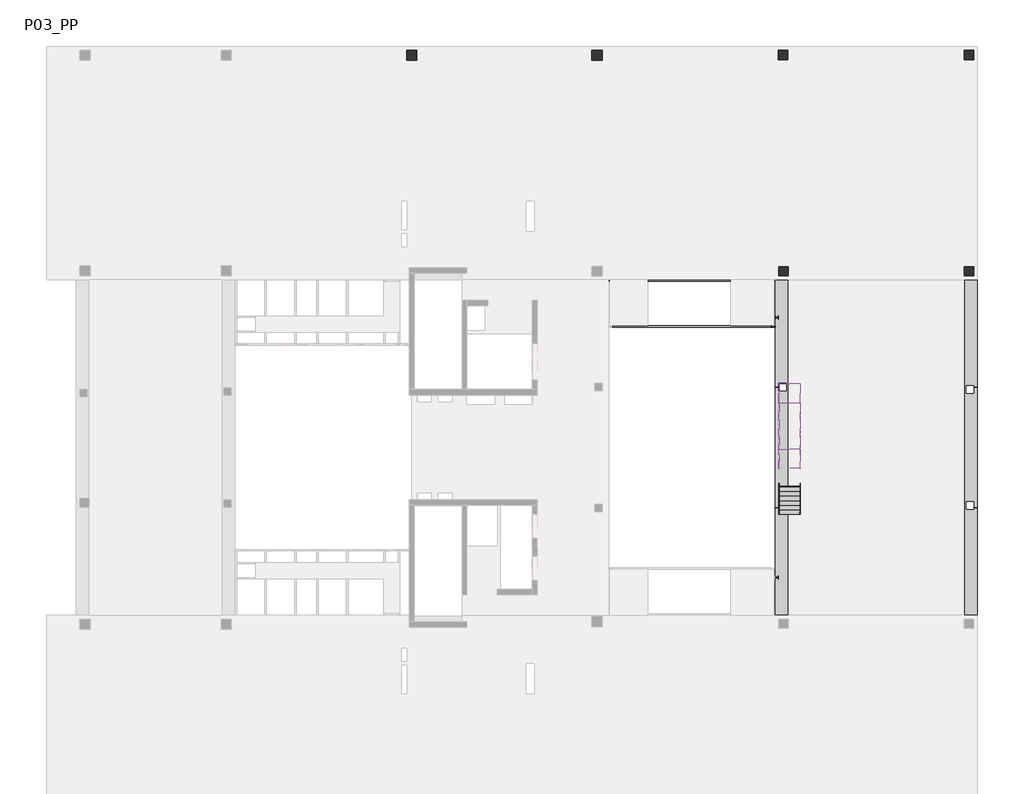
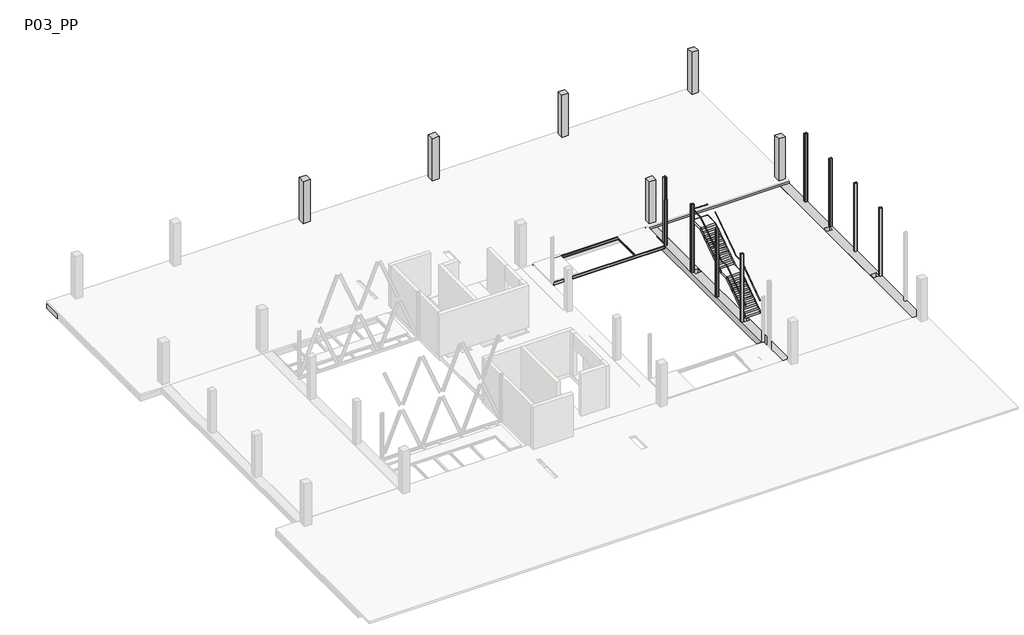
# One storey, part 4 of 4: 25 beams, 15 columns, 9 members, 2 railings, 2 slabs, 2 stair flights.
"""IFC4 building model written with IfcOpenShell, lengths in millimetres."""

from ifc_helpers import new_model, si_unit, frame, origin, place, context, project, spatial, polyline, outline, extrude, faceted_brep, transform, mapped, element, save
from components import ub_universal_beams_ipe_200x100_e371353f, ub_universal_beams_ipe_200x100_e55b9b05, ub_universal_beams_ipe_200x100_c7fdf681, upn200x75_de95b273, rhs_rectangular_hollow_section_column_200x150x5_0rhs_a2d85ab5, rhs_rectangular_hollow_section_column_200x150x5_0rhs_9796d75d, uc_universal_columns_column_uc180x180_a9cb9fe0, upn_200x75_1933780c, railing_900mm_pipe_top_rail_164bb325, railing_900mm_pipe_top_rail_34aa1886, slab_b811430f, slab_849558ca, metal_steps_w_10mm_tread_10mm_nosing_4cf3b717, metal_steps_w_10mm_tread_10mm_nosing_fdb89158

model = new_model("IFC4")

# Units and contexts
model_context = context("Model", 3, world=origin())
ifc_project = project(units=[si_unit("LENGTHUNIT", "METRE", prefix="MILLI")], contexts=[model_context])

# Site, building, storey
site = spatial("IfcSite", under=ifc_project)
building = spatial("IfcBuilding", under=site)
storey = spatial("IfcBuildingStorey", under=building, Name="P03_PP", Elevation=18660.0)

# Beams
placement = place(None, origin())
element("IfcBeam", 1, ObjectType="M_Concrete-Rectangular Beam : 1500 x 550mm", at=placement, inside=storey, context=model_context, shape_type="Brep", body=[
    faceted_brep([(16958.7687297, 26089.4144807, 18110.0), (-33190.2931093, 26089.4144807, 18110.0), (-33190.2931093, 26089.4144807, 18510.0), (16958.7687297, 26089.4144807, 18510.0), (-33190.2931093, 24589.4144807, 18110.0), (16958.7687297, 24589.4144807, 18110.0), (15458.7687297, 24589.4144807, 18110.0), (14183.7291255, 24589.4144807, 18110.0), (13783.7291255, 24589.4144807, 18110.0), (12517.0624618, 24589.4144807, 18110.0), (12117.0624618, 24589.4144807, 18110.0), (10850.3957976, 24589.4144807, 18110.0), (10450.3957976, 24589.4144807, 18110.0), (9183.7291339, 24589.4144807, 18110.0), (8783.7291339, 24589.4144807, 18110.0), (7517.0624701, 24589.4144807, 18110.0), (7117.0624701, 24589.4144807, 18110.0), (5850.3958055, 24589.4144807, 18110.0), (5450.3958055, 24589.4144807, 18110.0), (4183.7291418, 24589.4144807, 18110.0), (3783.7291418, 24589.4144807, 18110.0), (2517.0624776, 24589.4144807, 18110.0), (2117.0624776, 24589.4144807, 18110.0), (850.3958139, 24589.4144807, 18110.0), (450.3958139, 24589.4144807, 18110.0), (-816.2708502, 24589.4144807, 18110.0), (-1216.2708502, 24589.4144807, 18110.0), (-2482.9375136, 24589.4144807, 18110.0), (-2882.9375136, 24589.4144807, 18110.0), (-4149.6041777, 24589.4144807, 18110.0), (-4549.6041777, 24589.4144807, 18110.0), (-5816.2708415, 24589.4144807, 18110.0), (-6216.2708415, 24589.4144807, 18110.0), (-7482.9375051, 24589.4144807, 18110.0), (-7882.9375051, 24589.4144807, 18110.0), (-9149.6041702, 24589.4144807, 18110.0), (-9549.6041702, 24589.4144807, 18110.0), (-10816.2708336, 24589.4144807, 18110.0), (-11216.2708336, 24589.4144807, 18110.0), (-12482.9374977, 24589.4144807, 18110.0), (-12882.9374977, 24589.4144807, 18110.0), (-14149.604161, 24589.4144807, 18110.0), (-14549.604161, 24589.4144807, 18110.0), (-15816.2708252, 24589.4144807, 18110.0), (-16216.2708252, 24589.4144807, 18110.0), (-17482.9374898, 24589.4144807, 18110.0), (-17882.9374898, 24589.4144807, 18110.0), (-19149.6041539, 24589.4144807, 18110.0), (-19549.6041539, 24589.4144807, 18110.0), (-20816.2708168, 24589.4144807, 18110.0), (-21216.2708168, 24589.4144807, 18110.0), (-22482.9374805, 24589.4144807, 18110.0), (-22882.9374805, 24589.4144807, 18110.0), (-24149.6041453, 24589.4144807, 18110.0), (-24549.6041453, 24589.4144807, 18110.0), (-25816.2708089, 24589.4144807, 18110.0), (-26216.2708089, 24589.4144807, 18110.0), (-27482.9374731, 24589.4144807, 18110.0), (-27882.9374731, 24589.4144807, 18110.0), (-29149.6041367, 24589.4144807, 18110.0), (-29549.6041367, 24589.4144807, 18110.0), (-30816.2708024, 24589.4144807, 18110.0), (-31216.2708024, 24589.4144807, 18110.0), (-32490.2931093, 24589.4144807, 18110.0), (6733.8155462, 25389.413725, 18110.0), (6733.8155464, 25889.413725, 18110.0), (6233.8155464, 25889.4137252, 18110.0), (6233.8155462, 25389.4137252, 18110.0), (-3266.6337137, 25339.4136766, 18110.0), (-3266.6337144, 25889.4136766, 18110.0), (-3816.6337144, 25889.4136759, 18110.0), (-3816.6337137, 25339.4136759, 18110.0), (-13240.318322, 25339.4136498, 18110.0), (-13240.3183162, 25889.4136498, 18110.0), (-13790.3183162, 25889.4136556, 18110.0), (-13790.318322, 25339.4136556, 18110.0), (-23241.1831655, 25339.4135766, 18110.0), (-23241.1831663, 25889.4135766, 18110.0), (-23791.1831663, 25889.4135759, 18110.0), (-23791.1831655, 25339.4135759, 18110.0), (-30841.2187551, 25339.4135456, 18110.0), (-30841.2187544, 25889.4135456, 18110.0), (-31391.2187544, 25889.4135463, 18110.0), (-31391.2187551, 25339.4135463, 18110.0), (16758.7686074, 25389.4137774, 18110.0), (16758.7686071, 25889.4137774, 18110.0), (16258.7686071, 25889.4137771, 18110.0), (16258.7686074, 25389.4137771, 18110.0), (16958.7687297, 24589.4144807, 18510.0), (15458.7687297, 24589.4144807, 18510.0), (14183.7291255, 24589.4144807, 18510.0), (13783.7291255, 24589.4144807, 18510.0), (12517.0624618, 24589.4144807, 18510.0), (12117.0624618, 24589.4144807, 18510.0), (10850.3957976, 24589.4144807, 18510.0), (10450.3957976, 24589.4144807, 18510.0), (9183.7291339, 24589.4144807, 18510.0), (8783.7291339, 24589.4144807, 18510.0), (7517.0624701, 24589.4144807, 18510.0), (7117.0624701, 24589.4144807, 18510.0), (5850.3958055, 24589.4144807, 18510.0), (5450.3958055, 24589.4144807, 18510.0), (4183.7291418, 24589.4144807, 18510.0), (3783.7291418, 24589.4144807, 18510.0), (2517.0624776, 24589.4144807, 18510.0), (2117.0624776, 24589.4144807, 18510.0), (850.3958139, 24589.4144807, 18510.0), (450.3958139, 24589.4144807, 18510.0), (-816.2708502, 24589.4144807, 18510.0), (-1216.2708502, 24589.4144807, 18510.0), (-2482.9375136, 24589.4144807, 18510.0), (-2882.9375136, 24589.4144807, 18510.0), (-4149.6041777, 24589.4144807, 18510.0), (-4549.6041777, 24589.4144807, 18510.0), (-5816.2708415, 24589.4144807, 18510.0), (-6216.2708415, 24589.4144807, 18510.0), (-7482.9375051, 24589.4144807, 18510.0), (-7882.9375051, 24589.4144807, 18510.0), (-9149.6041702, 24589.4144807, 18510.0), (-9549.6041702, 24589.4144807, 18510.0), (-10816.2708336, 24589.4144807, 18510.0), (-11216.2708336, 24589.4144807, 18510.0), (-12482.9374977, 24589.4144807, 18510.0), (-12882.9374977, 24589.4144807, 18510.0), (-14149.604161, 24589.4144807, 18510.0), (-14549.604161, 24589.4144807, 18510.0), (-15816.2708252, 24589.4144807, 18510.0), (-16216.2708252, 24589.4144807, 18510.0), (-17482.9374898, 24589.4144807, 18510.0), (-17882.9374898, 24589.4144807, 18510.0), (-19149.6041539, 24589.4144807, 18510.0), (-19549.6041539, 24589.4144807, 18510.0), (-20816.2708168, 24589.4144807, 18510.0), (-21216.2708168, 24589.4144807, 18510.0), (-22482.9374805, 24589.4144807, 18510.0), (-22882.9374805, 24589.4144807, 18510.0), (-24149.6041453, 24589.4144807, 18510.0), (-24549.6041453, 24589.4144807, 18510.0), (-25816.2708089, 24589.4144807, 18510.0), (-26216.2708089, 24589.4144807, 18510.0), (-27482.9374731, 24589.4144807, 18510.0), (-27882.9374731, 24589.4144807, 18510.0), (-29149.6041367, 24589.4144807, 18510.0), (-29549.6041367, 24589.4144807, 18510.0), (-30816.2708024, 24589.4144807, 18510.0), (-31216.2708024, 24589.4144807, 18510.0), (-32490.2931093, 24589.4144807, 18510.0), (-33190.2931093, 24589.4144807, 18510.0), (6733.8155462, 25389.413725, 18360.0), (6733.8155464, 25889.413725, 18360.0), (6233.8155462, 25389.4137252, 18360.0), (6233.8155464, 25889.4137252, 18360.0), (-3266.6337137, 25339.4136766, 18360.0), (-3266.6337144, 25889.4136766, 18360.0), (-3816.6337137, 25339.4136759, 18360.0), (-3816.6337144, 25889.4136759, 18360.0), (-13240.318322, 25339.4136498, 18360.0), (-13240.3183162, 25889.4136498, 18360.0), (-13790.318322, 25339.4136556, 18360.0), (-13790.3183162, 25889.4136556, 18360.0), (-23241.1831655, 25339.4135766, 18360.0), (-23241.1831663, 25889.4135766, 18360.0), (-23791.1831655, 25339.4135759, 18360.0), (-23791.1831663, 25889.4135759, 18360.0), (-30841.2187551, 25339.4135456, 18360.0), (-30841.2187544, 25889.4135456, 18360.0), (-31391.2187551, 25339.4135463, 18360.0), (-31391.2187544, 25889.4135463, 18360.0), (16758.7686074, 25389.4137774, 18360.0), (16758.7686071, 25889.4137774, 18360.0), (16258.7686074, 25389.4137771, 18360.0), (16258.7686071, 25889.4137771, 18360.0)], [[[0, 1, 2, 3]], [[4, 1, 0, 5, 6, 7, 8, 9, 10, 11, 12, 13, 14, 15, 16, 17, 18, 19, 20, 21, 22, 23, 24, 25, 26, 27, 28, 29, 30, 31, 32, 33, 34, 35, 36, 37, 38, 39, 40, 41, 42, 43, 44, 45, 46, 47, 48, 49, 50, 51, 52, 53, 54, 55, 56, 57, 58, 59, 60, 61, 62, 63], [64, 65, 66, 67], [68, 69, 70, 71], [72, 73, 74, 75], [76, 77, 78, 79], [80, 81, 82, 83], [84, 85, 86, 87]], [[4, 63, 62, 61, 60, 59, 58, 57, 56, 55, 54, 53, 52, 51, 50, 49, 48, 47, 46, 45, 44, 43, 42, 41, 40, 39, 38, 37, 36, 35, 34, 33, 32, 31, 30, 29, 28, 27, 26, 25, 24, 23, 22, 21, 20, 19, 18, 17, 16, 15, 14, 13, 12, 11, 10, 9, 8, 7, 6, 5, 88, 89, 90, 91, 92, 93, 94, 95, 96, 97, 98, 99, 100, 101, 102, 103, 104, 105, 106, 107, 108, 109, 110, 111, 112, 113, 114, 115, 116, 117, 118, 119, 120, 121, 122, 123, 124, 125, 126, 127, 128, 129, 130, 131, 132, 133, 134, 135, 136, 137, 138, 139, 140, 141, 142, 143, 144, 145, 146, 147]], [[1, 4, 147, 2]], [[5, 0, 3, 88]], [[148, 149, 65, 64]], [[150, 148, 64, 67]], [[151, 150, 67, 66]], [[149, 151, 66, 65]], [[149, 148, 150, 151]], [[152, 153, 69, 68]], [[154, 152, 68, 71]], [[155, 154, 71, 70]], [[153, 155, 70, 69]], [[153, 152, 154, 155]], [[156, 157, 73, 72]], [[158, 156, 72, 75]], [[159, 158, 75, 74]], [[157, 159, 74, 73]], [[157, 156, 158, 159]], [[160, 161, 77, 76]], [[162, 160, 76, 79]], [[163, 162, 79, 78]], [[161, 163, 78, 77]], [[161, 160, 162, 163]], [[164, 165, 81, 80]], [[166, 164, 80, 83]], [[167, 166, 83, 82]], [[165, 167, 82, 81]], [[165, 164, 166, 167]], [[168, 169, 85, 84]], [[170, 168, 84, 87]], [[171, 170, 87, 86]], [[169, 171, 86, 85]], [[169, 168, 170, 171]], [[3, 2, 147, 146, 145, 144, 143, 142, 141, 140, 139, 138, 137, 136, 135, 134, 133, 132, 131, 130, 129, 128, 127, 126, 125, 124, 123, 122, 121, 120, 119, 118, 117, 116, 115, 114, 113, 112, 111, 110, 109, 108, 107, 106, 105, 104, 103, 102, 101, 100, 99, 98, 97, 96, 95, 94, 93, 92, 91, 90, 89, 88]]]),
])
element("IfcBeam", 2, ObjectType="M_Concrete-Rectangular Beam : 1500 x 550mm", at=placement, inside=storey, context=model_context, shape_type="SweptSolid", body=[
    extrude(outline(polyline([(15458.7687297, 24589.4144807), (16958.7687297, 24589.4144807), (16958.7687297, 14339.4134389), (15458.7687297, 14339.4134389), (15458.7687297, 24589.4144807)])), frame((0.0, 0.0, 18110.0), z_axis=(0.0, 0.0, 1.0), x_axis=(1.0, 0.0, 0.0)), (0.0, 0.0, 1.0), 400.0),
])
element("IfcBeam", 3, ObjectType="M_Concrete-Rectangular Beam : 400 x 550mm", at=placement, inside=storey, context=model_context, shape_type="SweptSolid", body=[
    extrude(outline(polyline([(-9549.6041702, 24589.4144807), (-9149.6041702, 24589.4144807), (-9149.6041702, 15039.4134441), (-9549.6041702, 15039.4134441), (-9549.6041702, 24589.4144807)])), frame((0.0, 0.0, 18110.0), z_axis=(0.0, 0.0, 1.0), x_axis=(1.0, 0.0, 0.0)), (0.0, 0.0, 1.0), 400.0),
])
element("IfcBeam", 4, ObjectType="M_Concrete-Rectangular Beam : 400 x 550mm", at=placement, inside=storey, context=model_context, shape_type="SweptSolid", body=[
    extrude(outline(polyline([(-7882.9375051, 24589.4144807), (-7482.9375051, 24589.4144807), (-7482.9375051, 15039.4134441), (-7882.9375051, 15039.4134441), (-7882.9375051, 24589.4144807)])), frame((0.0, 0.0, 18110.0), z_axis=(0.0, 0.0, 1.0), x_axis=(1.0, 0.0, 0.0)), (0.0, 0.0, 1.0), 400.0),
])
element("IfcBeam", 5, ObjectType="M_Concrete-Rectangular Beam : 400 x 550mm", at=placement, inside=storey, context=model_context, shape_type="SweptSolid", body=[
    extrude(outline(polyline([(-6216.2708415, 24589.4144807), (-5816.2708415, 24589.4144807), (-5816.2708415, 15039.4134441), (-6216.2708415, 15039.4134441), (-6216.2708415, 24589.4144807)])), frame((0.0, 0.0, 18110.0), z_axis=(0.0, 0.0, 1.0), x_axis=(1.0, 0.0, 0.0)), (0.0, 0.0, 1.0), 400.0),
])
element("IfcBeam", 6, ObjectType="M_Concrete-Rectangular Beam : 400 x 550mm", at=placement, inside=storey, context=model_context, shape_type="SweptSolid", body=[
    extrude(outline(polyline([(-4549.6041777, 24589.4144807), (-4149.6041777, 24589.4144807), (-4149.6041777, 15039.4134441), (-4549.6041777, 15039.4134441), (-4549.6041777, 24589.4144807)])), frame((0.0, 0.0, 18110.0), z_axis=(0.0, 0.0, 1.0), x_axis=(1.0, 0.0, 0.0)), (0.0, 0.0, 1.0), 400.0),
])
element("IfcBeam", 7, ObjectType="M_Concrete-Rectangular Beam : 400 x 550mm", at=placement, inside=storey, context=model_context, shape_type="SweptSolid", body=[
    extrude(outline(polyline([(-2882.9375136, 24589.4144807), (-2482.9375136, 24589.4144807), (-2482.9375136, 15039.4134441), (-2882.9375136, 15039.4134441), (-2882.9375136, 24589.4144807)])), frame((0.0, 0.0, 18110.0), z_axis=(0.0, 0.0, 1.0), x_axis=(1.0, 0.0, 0.0)), (0.0, 0.0, 1.0), 400.0),
])
element("IfcBeam", 8, ObjectType="M_Concrete-Rectangular Beam : 400 x 550mm", at=placement, inside=storey, context=model_context, shape_type="SweptSolid", body=[
    extrude(outline(polyline([(-1216.2708502, 24589.4144807), (-816.2708502, 24589.4144807), (-816.2708502, 15039.4134441), (-1216.2708502, 15039.4134441), (-1216.2708502, 24589.4144807)])), frame((0.0, 0.0, 18110.0), z_axis=(0.0, 0.0, 1.0), x_axis=(1.0, 0.0, 0.0)), (0.0, 0.0, 1.0), 400.0),
])
element("IfcBeam", 9, ObjectType="M_Concrete-Rectangular Beam : 400 x 550mm", at=placement, inside=storey, context=model_context, shape_type="SweptSolid", body=[
    extrude(outline(polyline([(450.3958139, 24589.4144807), (850.3958139, 24589.4144807), (850.3958139, 15039.4134441), (450.3958139, 15039.4134441), (450.3958139, 24589.4144807)])), frame((0.0, 0.0, 18110.0), z_axis=(0.0, 0.0, 1.0), x_axis=(1.0, 0.0, 0.0)), (0.0, 0.0, 1.0), 400.0),
])
element("IfcBeam", 10, ObjectType="M_Concrete-Rectangular Beam : 400 x 550mm", at=placement, inside=storey, context=model_context, shape_type="SweptSolid", body=[
    extrude(outline(polyline([(2117.0624776, 24589.4144807), (2517.0624776, 24589.4144807), (2517.0624776, 15039.4134441), (2117.0624776, 15039.4134441), (2117.0624776, 24589.4144807)])), frame((0.0, 0.0, 18110.0), z_axis=(0.0, 0.0, 1.0), x_axis=(1.0, 0.0, 0.0)), (0.0, 0.0, 1.0), 400.0),
])
element("IfcBeam", 11, ObjectType="M_Concrete-Rectangular Beam : 400 x 550mm", at=placement, inside=storey, context=model_context, shape_type="SweptSolid", body=[
    extrude(outline(polyline([(3783.7291418, 24589.4144807), (4183.7291418, 24589.4144807), (4183.7291418, 15039.4134441), (3783.7291418, 15039.4134441), (3783.7291418, 24589.4144807)])), frame((0.0, 0.0, 18110.0), z_axis=(0.0, 0.0, 1.0), x_axis=(1.0, 0.0, 0.0)), (0.0, 0.0, 1.0), 400.0),
])
element("IfcBeam", 12, ObjectType="M_Concrete-Rectangular Beam : 400 x 550mm", at=placement, inside=storey, context=model_context, shape_type="Brep", body=[
    faceted_brep([(5450.3958055, 24589.4144807, 18110.0), (5450.3958055, 15039.4134441, 18110.0), (5450.3958055, 14339.4134389, 18110.0), (5450.3958055, 14339.4134389, 18510.0), (5450.3958055, 15039.4134441, 18510.0), (5450.3958055, 24589.4144807, 18510.0), (5850.3958055, 24589.4144807, 18110.0), (5850.3958055, 14339.4134389, 18110.0), (5850.3958055, 24589.4144807, 18510.0), (5850.3958055, 14339.4134389, 18510.0)], [[[0, 1, 2, 3, 4, 5]], [[0, 6, 7, 2, 1]], [[7, 6, 8, 9]], [[6, 0, 5, 8]], [[2, 7, 9, 3]], [[5, 4, 3, 9, 8]]]),
])
element("IfcBeam", 13, ObjectType="M_Concrete-Rectangular Beam : 400 x 550mm", at=placement, inside=storey, context=model_context, shape_type="SweptSolid", body=[
    extrude(outline(polyline([(7117.0624701, 24589.4144807), (7517.0624701, 24589.4144807), (7517.0624701, 14339.4134389), (7117.0624701, 14339.4134389), (7117.0624701, 24589.4144807)])), frame((0.0, 0.0, 18110.0), z_axis=(0.0, 0.0, 1.0), x_axis=(1.0, 0.0, 0.0)), (0.0, 0.0, 1.0), 400.0),
])
element("IfcBeam", 14, ObjectType="M_Concrete-Rectangular Beam : 400 x 550mm", at=placement, inside=storey, context=model_context, shape_type="SweptSolid", body=[
    extrude(outline(polyline([(8783.7291339, 24589.4144807), (9183.7291339, 24589.4144807), (9183.7291339, 14339.4134389), (8783.7291339, 14339.4134389), (8783.7291339, 24589.4144807)])), frame((0.0, 0.0, 18110.0), z_axis=(0.0, 0.0, 1.0), x_axis=(1.0, 0.0, 0.0)), (0.0, 0.0, 1.0), 400.0),
])
element("IfcBeam", 15, ObjectType="M_Concrete-Rectangular Beam : 400 x 550mm", at=placement, inside=storey, context=model_context, shape_type="SweptSolid", body=[
    extrude(outline(polyline([(10450.3957976, 24589.4144807), (10850.3957976, 24589.4144807), (10850.3957976, 14339.4134389), (10450.3957976, 14339.4134389), (10450.3957976, 24589.4144807)])), frame((0.0, 0.0, 18110.0), z_axis=(0.0, 0.0, 1.0), x_axis=(1.0, 0.0, 0.0)), (0.0, 0.0, 1.0), 400.0),
])
element("IfcBeam", 16, ObjectType="M_Concrete-Rectangular Beam : 400 x 550mm", at=placement, inside=storey, context=model_context, shape_type="SweptSolid", body=[
    extrude(outline(polyline([(12117.0624618, 24589.4144807), (12517.0624618, 24589.4144807), (12517.0624618, 14339.4134389), (12117.0624618, 14339.4134389), (12117.0624618, 24589.4144807)])), frame((0.0, 0.0, 18110.0), z_axis=(0.0, 0.0, 1.0), x_axis=(1.0, 0.0, 0.0)), (0.0, 0.0, 1.0), 400.0),
])
element("IfcBeam", 17, ObjectType="M_Concrete-Rectangular Beam : 400 x 550mm", at=placement, inside=storey, context=model_context, shape_type="SweptSolid", body=[
    extrude(outline(polyline([(13783.7291255, 24589.4144807), (14183.7291255, 24589.4144807), (14183.7291255, 14339.4134389), (13783.7291255, 14339.4134389), (13783.7291255, 24589.4144807)])), frame((0.0, 0.0, 18110.0), z_axis=(0.0, 0.0, 1.0), x_axis=(1.0, 0.0, 0.0)), (0.0, 0.0, 1.0), 400.0),
])
element("IfcBeam", 18, ObjectType="M_Concrete-Rectangular Beam : 700 x 500mm", at=placement, inside=storey, context=model_context, shape_type="Brep", body=[
    faceted_brep([(6758.8308521, 13539.4134389, 18360.0), (6058.8308521, 13539.4134389, 18360.0), (6058.8308521, -4560.5861564, 18360.0), (6758.8308521, -4560.5861564, 18360.0), (6658.8276494, 1439.4125013, 18360.0), (6658.8276496, 1039.4125013, 18360.0), (6258.8276496, 1039.4125011, 18360.0), (6258.8276494, 1439.4125011, 18360.0), (6658.8276467, 7939.4125047, 18360.0), (6658.8276471, 7539.4125047, 18360.0), (6258.8276471, 7539.4125042, 18360.0), (6258.8276467, 7939.4125042, 18360.0), (6058.8308521, 14239.3949259, 17860.0), (6058.8308521, -5260.6051134, 17860.0), (6058.8308521, -5260.6051134, 17960.0), (6058.8308521, -4560.5861564, 17960.0), (6058.8308521, 13539.4134389, 17960.0), (6058.8308521, 14239.3949259, 17960.0), (6258.8308422, 14239.3949259, 17860.0), (6258.8308423, 13739.3949054, 17860.0), (6758.8308521, 13739.3949055, 17860.0), (6758.8308521, -4760.6051135, 17860.0), (6258.8308538, -4760.6051134, 17860.0), (6258.8308537, -5260.6051134, 17860.0), (6658.8276496, 1039.4125013, 17860.0), (6658.8276494, 1439.4125013, 17860.0), (6258.8276494, 1439.4125011, 17860.0), (6258.8276496, 1039.4125011, 17860.0), (6658.8276471, 7539.4125047, 17860.0), (6658.8276467, 7939.4125047, 17860.0), (6258.8276467, 7939.4125042, 17860.0), (6258.8276471, 7539.4125042, 17860.0), (6758.8308521, 13539.4134389, 17960.0), (6758.8308521, -4560.5861564, 17960.0), (6758.8308521, -4760.6051135, 17960.0), (6758.8308521, 13739.3949055, 17960.0), (6258.8308423, 13739.3949054, 17960.0), (6258.8308422, 14239.3949259, 17960.0), (6258.8308537, -5260.6051134, 17960.0), (6258.8308538, -4760.6051134, 17960.0)], [[[0, 1, 2, 3], [4, 5, 6, 7], [8, 9, 10, 11]], [[12, 13, 14, 15, 2, 1, 16, 17]], [[13, 12, 18, 19, 20, 21, 22, 23], [24, 25, 26, 27], [28, 29, 30, 31]], [[32, 0, 3, 33, 34, 21, 20, 35]], [[1, 0, 32, 16]], [[15, 33, 3, 2]], [[24, 5, 4, 25]], [[5, 24, 27, 6]], [[6, 27, 26, 7]], [[7, 26, 25, 4]], [[28, 9, 8, 29]], [[9, 28, 31, 10]], [[10, 31, 30, 11]], [[11, 30, 29, 8]], [[17, 16, 32, 35, 36, 37]], [[33, 15, 14, 38, 39, 34]], [[19, 36, 35, 20]], [[36, 19, 18, 37]], [[22, 39, 38, 23]], [[39, 22, 21, 34]], [[14, 13, 23, 38]], [[12, 17, 37, 18]]]),
])
element("IfcBeam", 19, ObjectType="M_Concrete-Rectangular Beam : 700 x 500mm", at=placement, inside=storey, context=model_context, shape_type="Brep", body=[
    faceted_brep([(16258.7687242, -5360.5861564, 17860.0), (16958.7687242, -5360.5861564, 17860.0), (16958.7687242, -5360.5861564, 17960.0), (16258.7687242, -5360.5861564, 17960.0), (16958.7687242, 14339.4134389, 17860.0), (16258.7687242, 14339.4134389, 17860.0), (16258.7687242, 14339.4134389, 17960.0), (16958.7687242, 14339.4134389, 17960.0), (16258.7687242, -4560.5861564, 18360.0), (16958.7687242, -4560.5861564, 18360.0), (16958.7687242, 13539.4134389, 18360.0), (16258.7687242, 13539.4134389, 18360.0), (16758.7654432, 1564.4119943, 18360.0), (16758.7654437, 1164.4119943, 18360.0), (16358.7654437, 1164.4119939, 18360.0), (16358.7654432, 1564.4119939, 18360.0), (16758.7654618, 7814.4125105, 18360.0), (16758.7654623, 7414.4125105, 18360.0), (16358.7654623, 7414.41251, 18360.0), (16358.7654618, 7814.41251, 18360.0), (16258.7687242, -5260.6050922, 17860.0), (16258.7687242, -5260.6050922, 17960.0), (16758.7686348, -5260.6050919, 17860.0), (16758.7686345, -4760.6050919, 17860.0), (16258.7687242, -4760.6050922, 17860.0), (16258.7687242, 13739.3949194, 17860.0), (16758.7687126, 13739.3949191, 17860.0), (16758.768713, 14239.3949191, 17860.0), (16258.7687242, 14239.3949194, 17860.0), (16758.7654437, 1164.4119943, 17860.0), (16758.7654432, 1564.4119943, 17860.0), (16358.7654432, 1564.4119939, 17860.0), (16358.7654437, 1164.4119939, 17860.0), (16758.7654623, 7414.4125105, 17860.0), (16758.7654618, 7814.4125105, 17860.0), (16358.7654618, 7814.41251, 17860.0), (16358.7654623, 7414.41251, 17860.0), (16958.7687242, 13539.4134389, 17960.0), (16958.7687242, -4560.5861564, 17960.0), (16258.7687242, -4560.5861564, 17960.0), (16258.7687242, 13539.4134389, 17960.0), (16758.7687126, 13739.3949191, 17960.0), (16758.768713, 14239.3949191, 17960.0), (16258.7687242, 13739.3949194, 17960.0), (16258.7687242, 14239.3949194, 17960.0), (16758.7686348, -5260.6050919, 17960.0), (16758.7686345, -4760.6050919, 17960.0), (16258.7687242, -4760.6050922, 17960.0)], [[[0, 1, 2, 3]], [[4, 5, 6, 7]], [[8, 9, 10, 11], [12, 13, 14, 15], [16, 17, 18, 19]], [[20, 0, 3, 21]], [[1, 0, 20, 22, 23, 24, 25, 26, 27, 28, 5, 4], [29, 30, 31, 32], [33, 34, 35, 36]], [[1, 4, 7, 37, 10, 9, 38, 2]], [[9, 8, 39, 38]], [[11, 10, 37, 40]], [[29, 13, 12, 30]], [[13, 29, 32, 14]], [[14, 32, 31, 15]], [[15, 31, 30, 12]], [[33, 17, 16, 34]], [[17, 33, 36, 18]], [[18, 36, 35, 19]], [[19, 35, 34, 16]], [[27, 26, 41, 42]], [[26, 25, 43, 41]], [[28, 27, 42, 44]], [[5, 28, 44, 6]], [[23, 22, 45, 46]], [[22, 20, 21, 45]], [[24, 23, 46, 47]], [[39, 8, 11, 40, 43, 25, 24, 47]], [[37, 7, 6, 44, 42, 41, 43, 40]], [[38, 39, 47, 46, 45, 21, 3, 2]]]),
])
element("IfcBeam", 20, ObjectType="M_Concrete-Rectangular Beam : 800 x 700mm", at=placement, inside=storey, context=model_context, shape_type="Brep", body=[
    faceted_brep([(16958.7687297, 14339.4134389, 17960.0), (16258.7687242, 14339.4134389, 17960.0), (5450.3958055, 14339.4134389, 17960.0), (5450.3958055, 14339.4134389, 18110.0), (5450.3958055, 14339.4134389, 18510.0), (5850.3958055, 14339.4134389, 18510.0), (7117.0624701, 14339.4134389, 18510.0), (7517.0624701, 14339.4134389, 18510.0), (8783.7291339, 14339.4134389, 18510.0), (9183.7291339, 14339.4134389, 18510.0), (10450.3957976, 14339.4134389, 18510.0), (10850.3957976, 14339.4134389, 18510.0), (12117.0624618, 14339.4134389, 18510.0), (12517.0624618, 14339.4134389, 18510.0), (13783.7291255, 14339.4134389, 18510.0), (14183.7291255, 14339.4134389, 18510.0), (15458.7687297, 14339.4134389, 18510.0), (16958.7687297, 14339.4134389, 18510.0), (16958.7687297, 14339.4134389, 18110.0), (16958.7687297, 13539.4134389, 17960.0), (16258.7687242, 13539.4134389, 17960.0), (6758.8308521, 13539.4134389, 17960.0), (6058.8308521, 13539.4134389, 17960.0), (5450.3958055, 13539.4134389, 17960.0), (6758.8308423, 13739.3949055, 17960.0), (6758.8308422, 14239.3949055, 17960.0), (6258.8308422, 14239.3949054, 17960.0), (6258.8308423, 13739.3949054, 17960.0), (16758.7687126, 13739.3949191, 17960.0), (16758.768713, 14239.3949191, 17960.0), (16258.768713, 14239.3949194, 17960.0), (16258.7687126, 13739.3949194, 17960.0), (16958.7687297, 13539.4134389, 18510.0), (5450.3958055, 13539.4134389, 18510.0), (6758.8308423, 13739.3949055, 18360.0), (6758.8308422, 14239.3949055, 18360.0), (6258.8308422, 14239.3949054, 18360.0), (6258.8308423, 13739.3949054, 18360.0), (16758.7687126, 13739.3949191, 18360.0), (16758.768713, 14239.3949191, 18360.0), (16258.768713, 14239.3949194, 18360.0), (16258.7687126, 13739.3949194, 18360.0)], [[[0, 1, 2, 3, 4, 5, 6, 7, 8, 9, 10, 11, 12, 13, 14, 15, 16, 17, 18]], [[0, 19, 20, 21, 22, 23, 2, 1], [24, 25, 26, 27], [28, 29, 30, 31]], [[23, 22, 21, 20, 19, 32, 33]], [[19, 0, 18, 17, 32]], [[34, 35, 25, 24]], [[36, 37, 27, 26]], [[35, 36, 26, 25]], [[35, 34, 37, 36]], [[38, 39, 29, 28]], [[40, 41, 31, 30]], [[39, 40, 30, 29]], [[39, 38, 41, 40]], [[37, 34, 24, 27]], [[41, 38, 28, 31]], [[2, 23, 33, 4, 3]], [[17, 16, 15, 14, 13, 12, 11, 10, 9, 8, 7, 6, 5, 4, 33, 32]]]),
])
ub_universal_beams_ipe_200x100_shape = ub_universal_beams_ipe_200x100_e371353f(model_context)
element("IfcBeam", 21, ObjectType="UB-Universal Beams : IPE 200x100", at=placement, inside=storey, context=model_context, shape_type="MappedRepresentation", body=[
    mapped(ub_universal_beams_ipe_200x100_shape, transform((1299.9319648, 13489.4134389, 18560.0), x_axis=(-1.0, 0.0, 0.0), y_axis=(0.0, -1.0, 0.0), z_axis=(0.0, 0.0, 1.0))),
])
ub_universal_beams_ipe_200x100_2_shape = ub_universal_beams_ipe_200x100_e55b9b05(model_context)
element("IfcBeam", 22, ObjectType="UB-Universal Beams : IPE 200x100", at=placement, inside=storey, context=model_context, shape_type="MappedRepresentation", body=[
    mapped(ub_universal_beams_ipe_200x100_2_shape, transform((5938.4982342, 12497.0186862, 18560.0), x_axis=(0.0, -1.0, 0.0), y_axis=(1.0, 0.0, 0.0), z_axis=(0.0, 0.0, 1.0))),
])
ub_universal_beams_ipe_200x100_3_shape = ub_universal_beams_ipe_200x100_c7fdf681(model_context)
element("IfcBeam", 23, ObjectType="UB-Universal Beams : IPE 200x100", at=placement, inside=storey, context=model_context, shape_type="MappedRepresentation", body=[
    mapped(ub_universal_beams_ipe_200x100_3_shape, transform((3714.2873994, 12277.4822831, 18560.0), x_axis=(0.0, -1.0, 0.0), y_axis=(1.0, 0.0, 0.0), z_axis=(0.0, 0.0, 1.0))),
])
element("IfcBeam", 24, ObjectType="UB-Universal Beams : IPE 200x100", at=placement, inside=storey, context=model_context, shape_type="MappedRepresentation", body=[
    mapped(ub_universal_beams_ipe_200x100_3_shape, transform((4826.3953909, 12277.4822831, 18560.0), x_axis=(0.0, -1.0, 0.0), y_axis=(1.0, 0.0, 0.0), z_axis=(0.0, 0.0, 1.0))),
])
upn200x75_shape = upn200x75_de95b273(model_context)
element("IfcBeam", 25, ObjectType="M_MC Shapes : UPN200x75", at=placement, inside=storey, context=model_context, shape_type="MappedRepresentation", body=[
    mapped(upn200x75_shape, transform((1578.7451428, 10990.5238327, 18560.0), x_axis=(-0.9999999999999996, 3.175673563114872e-08, 0.0), y_axis=(-3.175673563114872e-08, -0.9999999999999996, 0.0), z_axis=(0.0, 0.0, 1.0))),
])

# Columns
element("IfcColumn", 26, ObjectType="Concrete-Rectangular-Column : Pilar_Rectangular-Formigo-500x500", at=placement, inside=storey, context=model_context, shape_type="Brep", body=[
    faceted_brep([(6758.8308422, 14239.3949055, 18660.0), (6758.8308423, 13739.3949055, 18660.0), (6258.8308423, 13739.3949054, 18660.0), (6258.8308422, 14239.3949054, 18660.0), (6758.8308422, 14239.3949055, 22110.0), (6758.8308423, 13739.3949055, 22110.0), (6758.8308423, 13739.3949055, 21610.0), (6258.8308423, 13739.3949054, 22110.0), (6258.8308423, 13739.3949054, 21610.0), (6258.8308422, 14239.3949054, 22110.0)], [[[0, 1, 2, 3]], [[4, 5, 6, 1, 0]], [[5, 7, 8, 2, 1, 6]], [[7, 9, 3, 2, 8]], [[9, 4, 0, 3]], [[4, 9, 7, 5]]]),
])
element("IfcColumn", 27, ObjectType="Concrete-Rectangular-Column : Pilar_Rectangular-Formigo-500x500", at=placement, inside=storey, context=model_context, shape_type="Brep", body=[
    faceted_brep([(6733.8155464, 25889.413725, 18660.0), (6733.8155462, 25389.413725, 18660.0), (6233.8155462, 25389.4137252, 18660.0), (6233.8155464, 25889.4137252, 18660.0), (6733.8155464, 25889.413725, 22110.0), (6733.8155462, 25389.413725, 22110.0), (6733.8155464, 25889.413725, 21610.0), (6233.8155462, 25389.4137252, 22110.0), (6233.8155464, 25889.4137252, 22110.0), (6233.8155464, 25889.4137252, 21610.0)], [[[0, 1, 2, 3]], [[4, 5, 1, 0, 6]], [[5, 7, 2, 1]], [[7, 8, 9, 3, 2]], [[8, 4, 6, 0, 3, 9]], [[4, 8, 7, 5]]]),
])
element("IfcColumn", 28, ObjectType="Concrete-Rectangular-Column : Pilar_Rectangular-Formigo-550x550", at=placement, inside=storey, context=model_context, shape_type="Brep", body=[
    faceted_brep([(-3266.6337144, 25889.4136766, 18660.0), (-3266.6337137, 25339.4136766, 18660.0), (-3816.6337137, 25339.4136759, 18660.0), (-3816.6337144, 25889.4136759, 18660.0), (-3266.6337144, 25889.4136766, 22110.0), (-3266.6337138, 25389.4144807, 22110.0), (-3266.6337137, 25339.4136766, 22110.0), (-3266.6337137, 25339.4136766, 21710.0), (-3763.6636999, 25339.413676, 22110.0), (-3816.6337137, 25339.4136759, 22110.0), (-3816.6337137, 25339.4136759, 21860.0), (-3816.6337144, 25889.4136759, 22110.0)], [[[0, 1, 2, 3]], [[4, 5, 6, 7, 1, 0]], [[6, 8, 9, 10, 2, 1, 7]], [[9, 11, 3, 2, 10]], [[11, 4, 0, 3]], [[4, 11, 9, 8, 6, 5]]]),
])
element("IfcColumn", 29, ObjectType="Concrete-Rectangular-Column : Pilar_Rectangular-Formigo-550x550", at=placement, inside=storey, context=model_context, shape_type="Brep", body=[
    faceted_brep([(-13241.1844629, 25889.4121159, 18660.0), (-13241.1844619, 25339.4121159, 18660.0), (-13791.1844619, 25339.4121149, 18660.0), (-13791.1844629, 25889.4121149, 18660.0), (-13241.1844629, 25889.4121159, 22110.0), (-13241.1844619, 25339.4121159, 22110.0), (-13241.1844619, 25339.4121159, 21860.0), (-13241.1844629, 25889.4121159, 21860.0), (-13791.1844619, 25339.4121149, 22110.0), (-13791.1844619, 25339.4121149, 21860.0), (-13791.1844629, 25889.4121149, 22110.0), (-13791.1844629, 25889.4121149, 21860.0)], [[[0, 1, 2, 3]], [[4, 5, 6, 1, 0, 7]], [[5, 8, 9, 2, 1, 6]], [[8, 10, 11, 3, 2, 9]], [[10, 4, 7, 0, 3, 11]], [[4, 10, 8, 5]]]),
])
element("IfcColumn", 30, ObjectType="Concrete-Rectangular-Column : Pilar_Rectangular-Formigo-500x500", at=placement, inside=storey, context=model_context, shape_type="Brep", body=[
    faceted_brep([(16758.7685867, 25889.4122577, 18660.0), (16758.7685871, 25389.4122577, 18660.0), (16258.7685871, 25389.4122574, 18660.0), (16258.7685867, 25889.4122574, 18660.0), (16758.7685867, 25889.4122577, 22110.0), (16758.7685871, 25389.4122577, 22110.0), (16758.7685867, 25889.4122577, 21610.0), (16258.7685871, 25389.4122574, 22110.0), (16258.7685867, 25889.4122574, 22110.0), (16258.7685867, 25889.4122574, 21610.0)], [[[0, 1, 2, 3]], [[4, 5, 1, 0, 6]], [[5, 7, 2, 1]], [[7, 8, 9, 3, 2]], [[8, 4, 6, 0, 3, 9]], [[4, 8, 7, 5]]]),
])
element("IfcColumn", 31, ObjectType="Concrete-Rectangular-Column : Pilar_Rectangular-Formigo-500x500", at=placement, inside=storey, context=model_context, shape_type="Brep", body=[
    faceted_brep([(16758.7686977, 14239.3933936, 18660.0), (16758.7686974, 13739.3933936, 18660.0), (16258.7686974, 13739.3933939, 18660.0), (16258.7686977, 14239.3933939, 18660.0), (16758.7686977, 14239.3933936, 22110.0), (16758.7686974, 13739.3933936, 22110.0), (16758.7686974, 13739.3933936, 21610.0), (16758.7686977, 14239.3933936, 21610.0), (16258.7686974, 13739.3933939, 22110.0), (16258.7686977, 14239.3933939, 22110.0)], [[[0, 1, 2, 3]], [[4, 5, 6, 1, 0, 7]], [[5, 8, 2, 1, 6]], [[8, 9, 3, 2]], [[9, 4, 7, 0, 3]], [[4, 9, 8, 5]]]),
])
rhs_rectangular_hollow_section_column_200x150x5_0rhs_shape = rhs_rectangular_hollow_section_column_200x150x5_0rhs_a2d85ab5(model_context)
element("IfcColumn", 32, ObjectType="RHS-Rectangular Hollow Section-Column : 200x150x5.0RHS", at=placement, inside=storey, context=model_context, shape_type="MappedRepresentation", body=[
    mapped(rhs_rectangular_hollow_section_column_200x150x5_0rhs_shape, transform((16858.7642648, 11155.8916969, 0.0), x_axis=(1.0, -1.2790325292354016e-09, 0.0), y_axis=(1.2790325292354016e-09, 1.0, 0.0), z_axis=(0.0, 0.0, 1.0))),
])
element("IfcColumn", 33, ObjectType="RHS-Rectangular Hollow Section-Column : 200x150x5.0RHS", at=placement, inside=storey, context=model_context, shape_type="MappedRepresentation", body=[
    mapped(rhs_rectangular_hollow_section_column_200x150x5_0rhs_shape, transform((16858.7642648, 7822.4979102, 0.0), x_axis=(1.0, -1.2790325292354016e-09, 0.0), y_axis=(1.2790325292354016e-09, 1.0, 0.0), z_axis=(0.0, 0.0, 1.0))),
])
element("IfcColumn", 34, ObjectType="RHS-Rectangular Hollow Section-Column : 200x150x5.0RHS", at=placement, inside=storey, context=model_context, shape_type="MappedRepresentation", body=[
    mapped(rhs_rectangular_hollow_section_column_200x150x5_0rhs_shape, transform((16858.7642648, 4489.1041235, 0.0), x_axis=(1.0, -1.2790325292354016e-09, 0.0), y_axis=(1.2790325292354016e-09, 1.0, 0.0), z_axis=(0.0, 0.0, 1.0))),
])
element("IfcColumn", 35, ObjectType="RHS-Rectangular Hollow Section-Column : 200x150x5.0RHS", at=placement, inside=storey, context=model_context, shape_type="MappedRepresentation", body=[
    mapped(rhs_rectangular_hollow_section_column_200x150x5_0rhs_shape, transform((16858.7642648, 1155.7103369, 0.0), x_axis=(1.0, -1.2790325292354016e-09, 0.0), y_axis=(1.2790325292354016e-09, 1.0, 0.0), z_axis=(0.0, 0.0, 1.0))),
])
element("IfcColumn", 36, ObjectType="RHS-Rectangular Hollow Section-Column : 200x150x5.0RHS", at=placement, inside=storey, context=model_context, shape_type="MappedRepresentation", body=[
    mapped(rhs_rectangular_hollow_section_column_200x150x5_0rhs_shape, transform((6158.5748065, 4489.1041235, 0.0), x_axis=(1.0, -1.2790325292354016e-09, 0.0), y_axis=(1.2790325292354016e-09, 1.0, 0.0), z_axis=(0.0, 0.0, 1.0))),
])
element("IfcColumn", 37, ObjectType="RHS-Rectangular Hollow Section-Column : 200x150x5.0RHS", at=placement, inside=storey, context=model_context, shape_type="MappedRepresentation", body=[
    mapped(rhs_rectangular_hollow_section_column_200x150x5_0rhs_shape, transform((6158.5748169, 7822.4854818, 0.0), x_axis=(1.0, -3.607228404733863e-09, 0.0), y_axis=(3.607228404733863e-09, 1.0, 0.0), z_axis=(0.0, 0.0, 1.0))),
])
rhs_rectangular_hollow_section_column_200x150x5_0rhs_2_shape = rhs_rectangular_hollow_section_column_200x150x5_0rhs_9796d75d(model_context)
element("IfcColumn", 38, ObjectType="RHS-Rectangular Hollow Section-Column : 200x150x5.0RHS", at=placement, inside=storey, context=model_context, shape_type="MappedRepresentation", body=[
    mapped(rhs_rectangular_hollow_section_column_200x150x5_0rhs_2_shape, transform((6158.5748169, 1155.6854818, 0.0), x_axis=(1.0, 3.840375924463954e-10, 0.0), y_axis=(-3.840375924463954e-10, 1.0, 0.0), z_axis=(0.0, 0.0, 1.0))),
])
uc_universal_columns_column_uc180x180_shape = uc_universal_columns_column_uc180x180_a9cb9fe0(model_context)
element("IfcColumn", 39, ObjectType="UC-Universal Columns-Column : UC180x180", at=placement, inside=storey, context=model_context, shape_type="MappedRepresentation", body=[
    mapped(uc_universal_columns_column_uc180x180_shape, transform((6148.8308521, 11489.3957154, 0.0), x_axis=(0.0, 1.0, 0.0), y_axis=(-1.0, 0.0, 0.0), z_axis=(0.0, 0.0, 1.0))),
])
upn_200x75_shape = upn_200x75_1933780c(model_context)
element("IfcColumn", 40, ObjectType="M_MC Shapes-Column : UPN 200x75", at=placement, inside=storey, context=model_context, shape_type="MappedRepresentation", body=[
    mapped(upn_200x75_shape, transform((5958.8307626, 11006.0236936, 0.0), x_axis=(3.1229579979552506e-08, 0.9999999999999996, 0.0), y_axis=(-0.9999999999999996, 3.1229579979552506e-08, 0.0), z_axis=(0.0, 0.0, 1.0))),
])

# Members
element("IfcMember", 41, ObjectType="Stringer-Paint-10mm_Width-200mm_Height", at=placement, inside=storey, context=model_context, shape_type="SweptSolid", body=[
    extrude(outline(polyline([(882.5459718, 18760.0), (882.5459718, 18954.9879288), (3346.5636762, 20635.0), (3408.2577283, 20435.0), (951.5910617, 18760.0), (882.5459718, 18760.0)])), frame((6259.4763518, 0.0, 0.0), z_axis=(1.0, 0.0, 0.0), x_axis=(0.0, 1.0, 0.0)), (0.0, 0.0, 1.0), 10.0),
])
element("IfcMember", 42, ObjectType="Stringer-Paint-10mm_Width-200mm_Height", at=placement, inside=storey, context=model_context, shape_type="SweptSolid", body=[
    extrude(outline(polyline([(882.5459718, 18760.0), (882.5459718, 18954.9879288), (3346.5636762, 20635.0), (3408.2577283, 20435.0), (951.5910617, 18760.0), (882.5459718, 18760.0)])), frame((7399.4763518, 0.0, 0.0), z_axis=(1.0, 0.0, 0.0), x_axis=(0.0, 1.0, 0.0)), (0.0, 0.0, 1.0), 10.0),
])
element("IfcMember", 43, ObjectType="Stringer-Paint-10mm_Width-200mm_Height", at=placement, inside=storey, context=model_context, shape_type="SweptSolid", body=[
    extrude(outline(polyline([(4158.257736, 20435.0), (4096.5636839, 20635.0), (6846.5636839, 22510.0), (6908.257736, 22310.0), (4158.257736, 20435.0)])), frame((6259.4763518, 0.0, 0.0), z_axis=(1.0, 0.0, 0.0), x_axis=(0.0, 1.0, 0.0)), (0.0, 0.0, 1.0), 10.0),
])
element("IfcMember", 44, ObjectType="Stringer-Paint-10mm_Width-200mm_Height", at=placement, inside=storey, context=model_context, shape_type="SweptSolid", body=[
    extrude(outline(polyline([(4158.257736, 20435.0), (4096.5636839, 20635.0), (6846.5636839, 22510.0), (6908.257736, 22310.0), (4158.257736, 20435.0)])), frame((7399.4763518, 0.0, 0.0), z_axis=(1.0, 0.0, 0.0), x_axis=(0.0, 1.0, 0.0)), (0.0, 0.0, 1.0), 10.0),
])
element("IfcMember", 45, ObjectType="Stringer-Paint-10mm_Width-200mm_Height", at=placement, inside=storey, context=model_context, shape_type="SweptSolid", body=[
    extrude(outline(polyline([(4096.5636839, 20635.0), (4158.257736, 20435.0), (3408.2577283, 20435.0), (3346.5636762, 20635.0), (4096.5636839, 20635.0)])), frame((6259.4763518, 0.0, 0.0), z_axis=(1.0, 0.0, 0.0), x_axis=(0.0, 1.0, 0.0)), (0.0, 0.0, 1.0), 10.0),
])
element("IfcMember", 46, ObjectType="Stringer-Paint-10mm_Width-200mm_Height", at=placement, inside=storey, context=model_context, shape_type="Brep", body=[
    faceted_brep([(6269.4763518, 7922.5459947, 22510.0), (6259.4763518, 7932.5459947, 22510.0), (6259.4763518, 6846.5636839, 22510.0), (6269.4763518, 6846.5636839, 22510.0), (6269.4763518, 7922.5459947, 22310.0), (6269.4763518, 6908.257736, 22310.0), (6259.4763518, 7932.5459947, 22310.0), (6259.4763518, 6908.257736, 22310.0)], [[[0, 1, 2, 3]], [[4, 0, 3, 5]], [[6, 4, 5, 7]], [[1, 6, 7, 2]], [[1, 0, 4, 6]], [[2, 7, 5, 3]]]),
])
element("IfcMember", 47, ObjectType="Stringer-Paint-10mm_Width-200mm_Height", at=placement, inside=storey, context=model_context, shape_type="Brep", body=[
    faceted_brep([(7399.4763518, 6846.5636839, 22510.0), (7409.4763518, 6846.5636839, 22510.0), (7409.4763518, 7932.545989, 22510.0), (7399.4763518, 7922.5459891, 22510.0), (7399.4763518, 6908.257736, 22310.0), (7399.4763518, 7922.5459891, 22310.0), (7409.4763518, 6908.257736, 22310.0), (7409.4763518, 7932.545989, 22310.0)], [[[0, 1, 2, 3]], [[4, 0, 3, 5]], [[6, 4, 5, 7]], [[1, 6, 7, 2]], [[2, 7, 5, 3]], [[1, 0, 4, 6]]]),
])
element("IfcMember", 48, ObjectType="Stringer-Paint-10mm_Width-200mm_Height", at=placement, inside=storey, context=model_context, shape_type="SweptSolid", body=[
    extrude(outline(polyline([(7409.4763518, 7932.545989), (7399.4763518, 7922.5459891), (6269.4763518, 7922.5459947), (6259.4763518, 7932.5459947), (7409.4763518, 7932.545989)])), frame((0.0, 0.0, 22310.0), z_axis=(0.0, 0.0, 1.0), x_axis=(1.0, 0.0, 0.0)), (0.0, 0.0, 1.0), 200.0),
])
element("IfcMember", 49, ObjectType="Stringer-Paint-10mm_Width-200mm_Height", at=placement, inside=storey, context=model_context, shape_type="SweptSolid", body=[
    extrude(outline(polyline([(3408.2577283, 20435.0), (3346.5636762, 20635.0), (4096.5636839, 20635.0), (4158.257736, 20435.0), (3408.2577283, 20435.0)])), frame((7399.4763518, 0.0, 0.0), z_axis=(1.0, 0.0, 0.0), x_axis=(0.0, 1.0, 0.0)), (0.0, 0.0, 1.0), 10.0),
])

# Railings
railing_900mm_pipe_top_rail_shape = railing_900mm_pipe_top_rail_164bb325(model_context)
element("IfcRailing", 50, ObjectType="900mm_Pipe_Top Rail", at=placement, inside=storey, context=model_context, shape_type="MappedRepresentation", body=[
    mapped(railing_900mm_pipe_top_rail_shape, transform((0.0, 0.0, 0.0), x_axis=(1.0, 0.0, 0.0), y_axis=(0.0, 1.0, 0.0), z_axis=(0.0, 0.0, 1.0))),
])
railing_900mm_pipe_top_rail_2_shape = railing_900mm_pipe_top_rail_34aa1886(model_context)
element("IfcRailing", 51, ObjectType="900mm_Pipe_Top Rail", at=placement, inside=storey, context=model_context, shape_type="MappedRepresentation", body=[
    mapped(railing_900mm_pipe_top_rail_2_shape, transform((0.0, 0.0, 0.0), x_axis=(1.0, 0.0, 0.0), y_axis=(0.0, 1.0, 0.0), z_axis=(0.0, 0.0, 1.0))),
])

# Slabs
slab_shape = slab_b811430f(model_context)
element("IfcSlab", 52, ObjectType="Non-Monolitic_Landing", at=placement, inside=storey, context=model_context, shape_type="MappedRepresentation", body=[
    mapped(slab_shape, transform((0.0, 0.0, 0.0), x_axis=(1.0, 0.0, 0.0), y_axis=(0.0, 1.0, 0.0), z_axis=(0.0, 0.0, 1.0))),
])
slab_2_shape = slab_849558ca(model_context)
element("IfcSlab", 53, ObjectType="Non-Monolitic_Landing", at=placement, inside=storey, context=model_context, shape_type="MappedRepresentation", body=[
    mapped(slab_2_shape, transform((0.0, 0.0, 0.0), x_axis=(1.0, 0.0, 0.0), y_axis=(0.0, 1.0, 0.0), z_axis=(0.0, 0.0, 1.0))),
])

# Stair flights
metal_steps_w_10mm_tread_10mm_nosing_shape = metal_steps_w_10mm_tread_10mm_nosing_4cf3b717(model_context)
element("IfcStairFlight", 54, ObjectType="Metal_Steps_w-10mm_Tread-10mm_Nosing", at=placement, inside=storey, context=model_context, shape_type="MappedRepresentation", body=[
    mapped(metal_steps_w_10mm_tread_10mm_nosing_shape, transform((0.0, 0.0, 0.0), x_axis=(1.0, 0.0, 0.0), y_axis=(0.0, 1.0, 0.0), z_axis=(0.0, 0.0, 1.0))),
])
metal_steps_w_10mm_tread_10mm_nosing_2_shape = metal_steps_w_10mm_tread_10mm_nosing_fdb89158(model_context)
element("IfcStairFlight", 55, ObjectType="Metal_Steps_w-10mm_Tread-10mm_Nosing", at=placement, inside=storey, context=model_context, shape_type="MappedRepresentation", body=[
    mapped(metal_steps_w_10mm_tread_10mm_nosing_2_shape, transform((0.0, 0.0, 0.0), x_axis=(1.0, 0.0, 0.0), y_axis=(0.0, 1.0, 0.0), z_axis=(0.0, 0.0, 1.0))),
])

save(model, "model.ifc")
